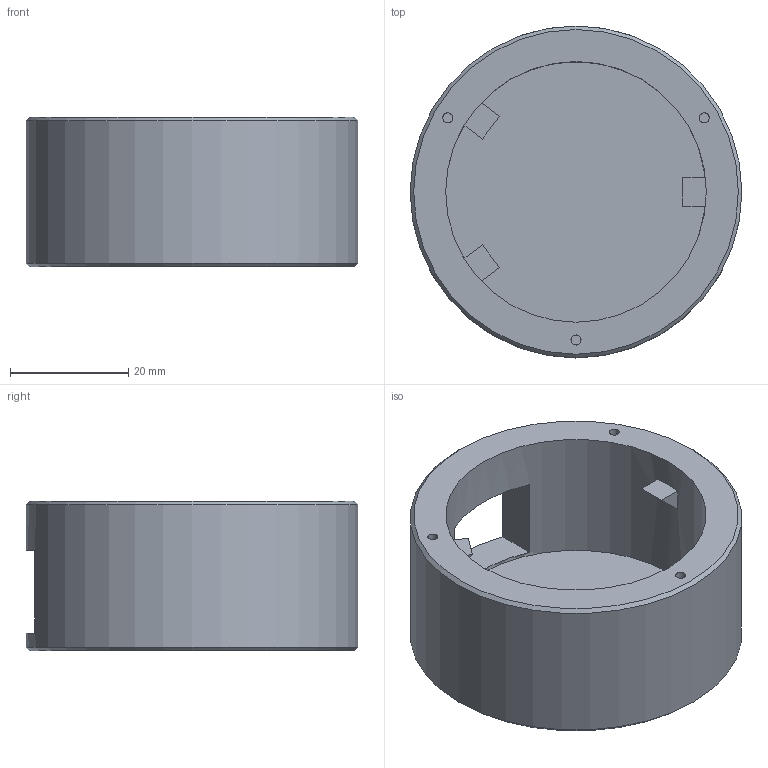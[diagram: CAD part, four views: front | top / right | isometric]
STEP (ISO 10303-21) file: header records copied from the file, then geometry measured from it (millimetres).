
FILE_DESCRIPTION(('Open CASCADE Model'),'2;1');
FILE_NAME('Open CASCADE Shape Model','2026-11-04T16:01:59',('Author'),( 'Open CASCADE'),'Open CASCADE STEP processor 7.9','Open CASCADE 7.9' ,'Unknown');
FILE_SCHEMA(('AUTOMOTIVE_DESIGN { 1 0 10303 214 1 1 1 1 }'));
Length unit declared in the file: millimetre
Products named in the file (1): Open CASCADE STEP translator 7.9 1
Bounding box: 56 x 56 x 25.3 mm (x, y, z)
Volume: 25944.7 mm3; surface area: 12543.1 mm2
Topology: 1 solids, 1 shells, 29 faces, 61 edges, 40 vertices
Faces by surface type: plane 22, cylinder 5, cone 2
Full cylindrical faces by diameter (mm): 1.7 x3, 44 x1, 56 x1
Entity records: 1602 total; most frequent: CARTESIAN_POINT 345, DIRECTION 231, ORIENTED_EDGE 122, PCURVE 122, DEFINITIONAL_REPRESENTATION 122, LINE 109, VECTOR 109, EDGE_CURVE 61
